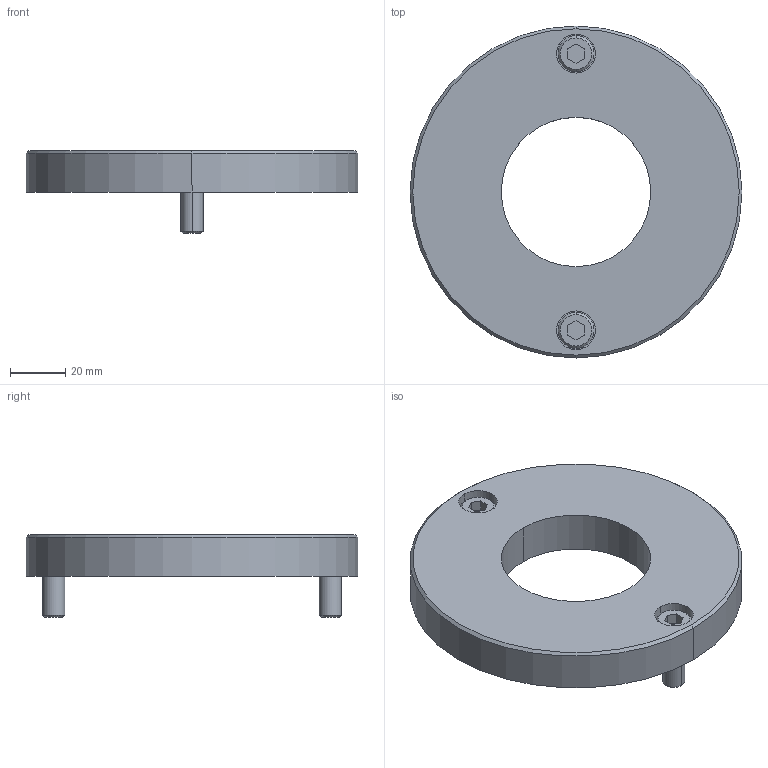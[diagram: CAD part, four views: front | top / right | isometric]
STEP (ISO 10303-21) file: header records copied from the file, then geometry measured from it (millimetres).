
FILE_DESCRIPTION((''),'2;1');
FILE_NAME('','2010-09-08T14:40:11+09:00',('misumi'),(''),'M/STEP i/f 1R2-14','CADmeister v5.1','');
FILE_SCHEMA(('AUTOMOTIVE_DESIGN'));
Length unit declared in the file: millimetre
Products named in the file (1): DSEB50-15-R
Bounding box: 120 x 120 x 30 mm (x, y, z)
Volume: 135235.1 mm3; surface area: 29215.2 mm2
Topology: 3 solids, 3 shells, 54 faces, 118 edges, 76 vertices
Faces by surface type: plane 24, cylinder 20, cone 10
Entity records: 1613 total; most frequent: DIRECTION 280, CARTESIAN_POINT 247, ORIENTED_EDGE 232, EDGE_CURVE 116, AXIS2_PLACEMENT_3D 107, VERTEX_POINT 74, LINE 66, VECTOR 66
